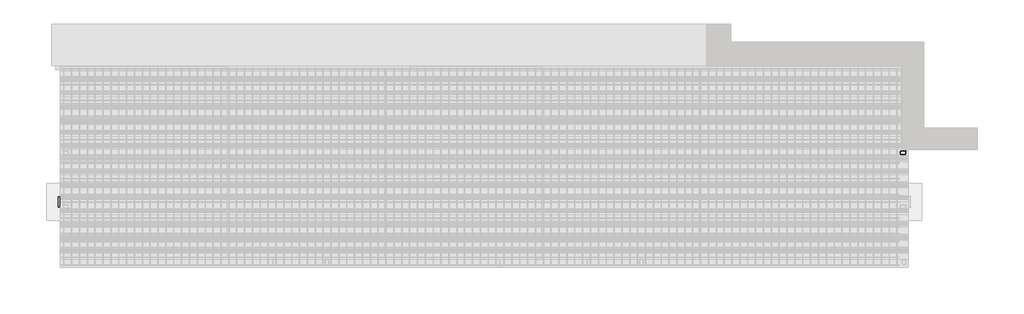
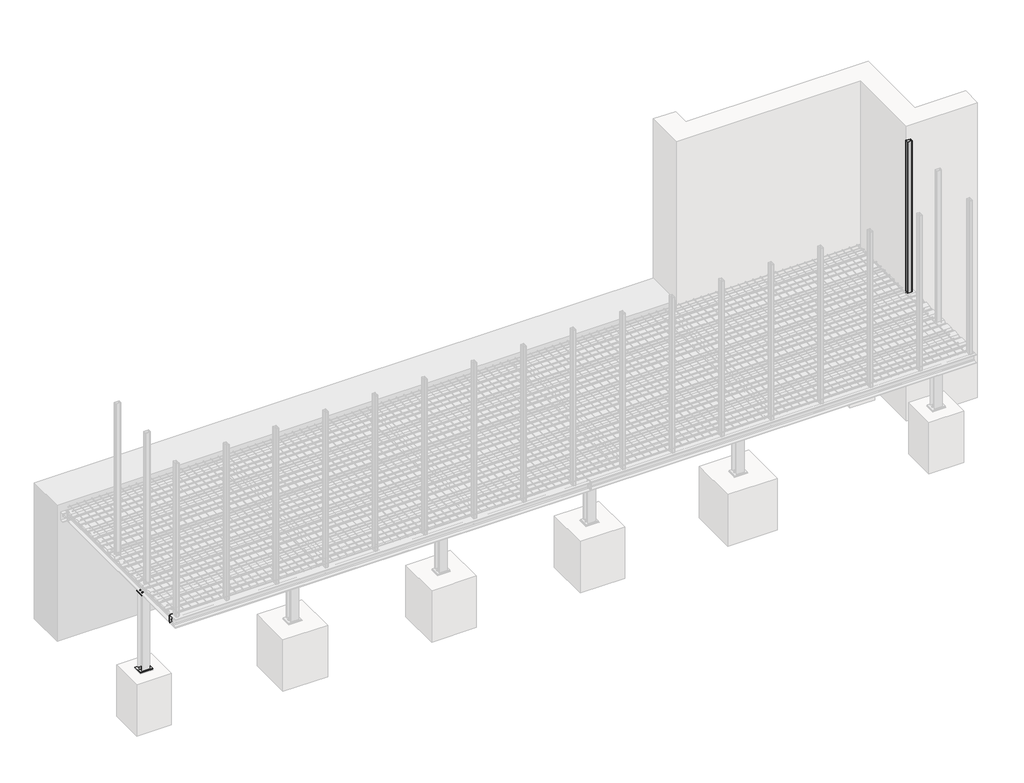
# One storey, part 6 of 36: 11 proxies, 1 column.
"""IFC4 building model written with IfcOpenShell, lengths in millimetres."""

from ifc_helpers import new_model, si_unit, point, frame, frame_2d, origin, place, context, project, spatial, polyline, circle_curve, trimmed, segment, composite_curve, outline, extrude, element, save

model = new_model("IFC4")

# Units and contexts
model_context = context("Model", 3, world=origin())
ifc_project = project(units=[si_unit("LENGTHUNIT", "METRE", prefix="MILLI")], contexts=[model_context])

# Site, building, storey
site = spatial("IfcSite", under=ifc_project)
building = spatial("IfcBuilding", under=site)
storey = spatial("IfcBuildingStorey", under=building, Name="Základy", Elevation=-1200.0)

# Proxies
placement = place(None, origin())
element("IfcBuildingElementProxy", 1, Name="PLECH", ObjectType="PLECH", at=placement, inside=storey, context=model_context, shape_type="SweptSolid", body=[
    extrude(outline(polyline([(150.0, 1200.0), (150.0, 1320.0), (160.0, 1320.0), (160.0, 1200.0), (150.0, 1200.0)])), frame((0.0, 0.0, -299.0), z_axis=(0.0, 0.0, 1.0), x_axis=(1.0, 0.0, 0.0)), (0.0, 0.0, 1.0), 98.0),
])
element("IfcBuildingElementProxy", 2, Name="PLECH", ObjectType="PLECH", at=placement, inside=storey, context=model_context, shape_type="SweptSolid", body=[
    extrude(outline(polyline([(140.0, 1200.0), (140.0, 1320.0), (150.0, 1320.0), (150.0, 1200.0), (140.0, 1200.0)])), frame((0.0, 0.0, -332.0), z_axis=(0.0, 0.0, 1.0), x_axis=(1.0, 0.0, 0.0)), (0.0, 0.0, 1.0), 164.0),
])
element("IfcBuildingElementProxy", 3, Name="PLECH", ObjectType="PLECH", at=placement, inside=storey, context=model_context, shape_type="SweptSolid", body=[
    extrude(outline(composite_curve([segment(polyline([(-174.0, 140.0), (-174.0, 79.5)]), True, "CONTINUOUS"), segment(trimmed(circle_curve(frame_2d((-174.0, 54.5)), 25.0), [point((-174.0, 79.5))], [point((-199.0, 54.5))], True, "CARTESIAN"), True, "CONTINUOUS"), segment(polyline([(-199.0, 54.5), (-301.0, 54.5)]), True, "CONTINUOUS"), segment(trimmed(circle_curve(frame_2d((-326.0, 54.5)), 25.0), [point((-301.0, 54.5))], [point((-326.0, 79.5))], True, "CARTESIAN"), True, "CONTINUOUS"), segment(polyline([(-326.0, 79.5), (-326.0, 140.0), (-174.0, 140.0)]), True, "CONTINUOUS")], self_intersect=False)), frame((0.0, 1256.0, 0.0), z_axis=(0.0, 1.0, 0.0), x_axis=(0.0, 0.0, 1.0)), (0.0, 0.0, 1.0), 8.0),
])
element("IfcBuildingElementProxy", 4, Name="PLECH", ObjectType="PLECH", at=placement, inside=storey, context=model_context, shape_type="SweptSolid", body=[
    extrude(outline(polyline([(-40.0, 210.0), (140.0, 210.0), (140.0, 200.0), (-40.0, 200.0), (-40.0, 210.0)])), frame((0.0, 0.0, -332.0), z_axis=(0.0, 0.0, 1.0), x_axis=(1.0, 0.0, 0.0)), (0.0, 0.0, 1.0), 164.0),
])
element("IfcBuildingElementProxy", 5, Name="PLECH", ObjectType="PLECH", at=placement, inside=storey, context=model_context, shape_type="SweptSolid", body=[
    extrude(outline(composite_curve([segment(polyline([(190.0, -174.0), (190.0, -326.0), (124.25, -326.0)]), True, "CONTINUOUS"), segment(trimmed(circle_curve(frame_2d((104.25, -326.0)), 20.0), [point((124.25, -326.0))], [point((104.25, -306.0))], True, "CARTESIAN"), True, "CONTINUOUS"), segment(polyline([(104.25, -306.0), (104.25, -194.0)]), True, "CONTINUOUS"), segment(trimmed(circle_curve(frame_2d((104.25, -174.0)), 20.0), [point((104.25, -194.0))], [point((124.25, -174.0))], True, "CARTESIAN"), True, "CONTINUOUS"), segment(polyline([(124.25, -174.0), (190.0, -174.0)]), True, "CONTINUOUS")], self_intersect=False)), frame((46.0, 0.0, 0.0), z_axis=(1.0, 0.0, 0.0), x_axis=(0.0, 1.0, 0.0)), (0.0, 0.0, 1.0), 8.0),
])
element("IfcBuildingElementProxy", 6, Name="PLECH", ObjectType="PLECH", at=placement, inside=storey, context=model_context, shape_type="SweptSolid", body=[
    extrude(outline(polyline([(-40.0, 200.0), (140.0, 200.0), (140.0, 190.0), (-40.0, 190.0), (-40.0, 200.0)])), frame((0.0, 0.0, -332.0), z_axis=(0.0, 0.0, 1.0), x_axis=(1.0, 0.0, 0.0)), (0.0, 0.0, 1.0), 164.0),
])
element("IfcBuildingElementProxy", 7, Name="PLECH", ObjectType="PLECH", at=placement, inside=storey, context=model_context, shape_type="SweptSolid", body=[
    extrude(outline(polyline([(175.0, 1356.0), (175.0, 1164.0), (-75.0, 1164.0), (-75.0, 1356.0), (175.0, 1356.0)])), frame((0.0, 0.0, -1990.0), z_axis=(0.0, 0.0, 1.0), x_axis=(1.0, 0.0, 0.0)), (0.0, 0.0, 1.0), 15.0),
])
element("IfcBuildingElementProxy", 8, Name="PLECH", ObjectType="PLECH", at=placement, inside=storey, context=model_context, shape_type="SweptSolid", body=[
    extrude(outline(polyline([(140.0, 1346.0), (140.0, 1174.0), (-40.0, 1174.0), (-40.0, 1346.0), (140.0, 1346.0)])), frame((0.0, 0.0, -350.0), z_axis=(0.0, 0.0, 1.0), x_axis=(1.0, 0.0, 0.0)), (0.0, 0.0, 1.0), 10.0),
])
element("IfcBuildingElementProxy", 9, Name="Bolt assembly", ObjectType="Bolt assembly", at=placement, inside=storey, context=model_context, shape_type="SweptSolid", body=[
    extrude(outline(composite_curve([segment(trimmed(circle_curve(frame_2d((1230.0, -225.0)), 6.5), [point((1230.0, -231.5))], [point((1230.0, -218.5))], False, "CARTESIAN"), True, "CONTINUOUS"), segment(trimmed(circle_curve(frame_2d((1230.0, -225.0)), 6.5), [point((1230.0, -218.5))], [point((1230.0, -231.5))], False, "CARTESIAN"), True, "CONTINUOUS")], self_intersect=False)), frame((140.1, 0.0, 0.0), z_axis=(1.0, 0.0, 0.0), x_axis=(0.0, 1.0, 0.0)), (0.0, 0.0, 1.0), 10.0),
    extrude(outline(polyline([(1230.0, -235.3923048), (1221.0, -230.1961524), (1221.0, -219.8038476), (1230.0, -214.6076952), (1239.0, -219.8038476), (1239.0, -230.1961524), (1230.0, -235.3923048)])), frame((130.0, 0.0, 0.0), z_axis=(1.0, 0.0, 0.0), x_axis=(0.0, 1.0, 0.0)), (0.0, 0.0, 1.0), 7.5),
    extrude(outline(composite_curve([segment(trimmed(circle_curve(frame_2d((1230.0, -225.0)), 6.0), [point((1230.0, -231.0))], [point((1230.0, -219.0))], False, "CARTESIAN"), True, "CONTINUOUS"), segment(trimmed(circle_curve(frame_2d((1230.0, -225.0)), 6.0), [point((1230.0, -219.0))], [point((1230.0, -231.0))], False, "CARTESIAN"), True, "CONTINUOUS")], self_intersect=False)), frame((137.5, 0.0, 0.0), z_axis=(1.0, 0.0, 0.0), x_axis=(0.0, 1.0, 0.0)), (0.0, 0.0, 1.0), 40.0),
    extrude(outline(composite_curve([segment(trimmed(circle_curve(frame_2d((1230.0, -225.0)), 12.0), [point((1230.0, -237.0))], [point((1230.0, -213.0))], False, "CARTESIAN"), True, "CONTINUOUS"), segment(trimmed(circle_curve(frame_2d((1230.0, -225.0)), 12.0), [point((1230.0, -213.0))], [point((1230.0, -237.0))], False, "CARTESIAN"), True, "CONTINUOUS")], self_intersect=False)), frame((137.5, 0.0, 0.0), z_axis=(1.0, 0.0, 0.0), x_axis=(0.0, 1.0, 0.0)), (0.0, 0.0, 1.0), 2.5),
    extrude(outline(composite_curve([segment(trimmed(circle_curve(frame_2d((1230.0, -225.0)), 12.0), [point((1230.0, -237.0))], [point((1230.0, -213.0))], False, "CARTESIAN"), True, "CONTINUOUS"), segment(trimmed(circle_curve(frame_2d((1230.0, -225.0)), 12.0), [point((1230.0, -213.0))], [point((1230.0, -237.0))], False, "CARTESIAN"), True, "CONTINUOUS")], self_intersect=False)), frame((160.0, 0.0, 0.0), z_axis=(1.0, 0.0, 0.0), x_axis=(0.0, 1.0, 0.0)), (0.0, 0.0, 1.0), 2.5),
    extrude(outline(polyline([(1230.0, -235.9696551), (1220.5, -230.4848276), (1220.5, -219.5151724), (1230.0, -214.0303449), (1239.5, -219.5151724), (1239.5, -230.4848276), (1230.0, -235.9696551)])), frame((162.5, 0.0, 0.0), z_axis=(1.0, 0.0, 0.0), x_axis=(0.0, 1.0, 0.0)), (0.0, 0.0, 1.0), 10.0),
    extrude(outline(composite_curve([segment(trimmed(circle_curve(frame_2d((1230.0, -225.0)), 6.5), [point((1230.0, -231.5))], [point((1230.0, -218.5))], False, "CARTESIAN"), True, "CONTINUOUS"), segment(trimmed(circle_curve(frame_2d((1230.0, -225.0)), 6.5), [point((1230.0, -218.5))], [point((1230.0, -231.5))], False, "CARTESIAN"), True, "CONTINUOUS")], self_intersect=False)), frame((149.9, 0.0, 0.0), z_axis=(1.0, 0.0, 0.0), x_axis=(0.0, 1.0, 0.0)), (0.0, 0.0, 1.0), 10.1),
    extrude(outline(composite_curve([segment(trimmed(circle_curve(frame_2d((1230.0, -275.0)), 6.5), [point((1230.0, -281.5))], [point((1230.0, -268.5))], False, "CARTESIAN"), True, "CONTINUOUS"), segment(trimmed(circle_curve(frame_2d((1230.0, -275.0)), 6.5), [point((1230.0, -268.5))], [point((1230.0, -281.5))], False, "CARTESIAN"), True, "CONTINUOUS")], self_intersect=False)), frame((140.1, 0.0, 0.0), z_axis=(1.0, 0.0, 0.0), x_axis=(0.0, 1.0, 0.0)), (0.0, 0.0, 1.0), 10.0),
    extrude(outline(polyline([(1230.0, -285.3923048), (1221.0, -280.1961524), (1221.0, -269.8038476), (1230.0, -264.6076952), (1239.0, -269.8038476), (1239.0, -280.1961524), (1230.0, -285.3923048)])), frame((130.0, 0.0, 0.0), z_axis=(1.0, 0.0, 0.0), x_axis=(0.0, 1.0, 0.0)), (0.0, 0.0, 1.0), 7.5),
    extrude(outline(composite_curve([segment(trimmed(circle_curve(frame_2d((1230.0, -275.0)), 6.0), [point((1230.0, -281.0))], [point((1230.0, -269.0))], False, "CARTESIAN"), True, "CONTINUOUS"), segment(trimmed(circle_curve(frame_2d((1230.0, -275.0)), 6.0), [point((1230.0, -269.0))], [point((1230.0, -281.0))], False, "CARTESIAN"), True, "CONTINUOUS")], self_intersect=False)), frame((137.5, 0.0, 0.0), z_axis=(1.0, 0.0, 0.0), x_axis=(0.0, 1.0, 0.0)), (0.0, 0.0, 1.0), 40.0),
    extrude(outline(composite_curve([segment(trimmed(circle_curve(frame_2d((1230.0, -275.0)), 12.0), [point((1230.0, -287.0))], [point((1230.0, -263.0))], False, "CARTESIAN"), True, "CONTINUOUS"), segment(trimmed(circle_curve(frame_2d((1230.0, -275.0)), 12.0), [point((1230.0, -263.0))], [point((1230.0, -287.0))], False, "CARTESIAN"), True, "CONTINUOUS")], self_intersect=False)), frame((137.5, 0.0, 0.0), z_axis=(1.0, 0.0, 0.0), x_axis=(0.0, 1.0, 0.0)), (0.0, 0.0, 1.0), 2.5),
    extrude(outline(composite_curve([segment(trimmed(circle_curve(frame_2d((1230.0, -275.0)), 12.0), [point((1230.0, -287.0))], [point((1230.0, -263.0))], False, "CARTESIAN"), True, "CONTINUOUS"), segment(trimmed(circle_curve(frame_2d((1230.0, -275.0)), 12.0), [point((1230.0, -263.0))], [point((1230.0, -287.0))], False, "CARTESIAN"), True, "CONTINUOUS")], self_intersect=False)), frame((160.0, 0.0, 0.0), z_axis=(1.0, 0.0, 0.0), x_axis=(0.0, 1.0, 0.0)), (0.0, 0.0, 1.0), 2.5),
    extrude(outline(polyline([(1230.0, -285.9696551), (1220.5, -280.4848276), (1220.5, -269.5151724), (1230.0, -264.0303449), (1239.5, -269.5151724), (1239.5, -280.4848276), (1230.0, -285.9696551)])), frame((162.5, 0.0, 0.0), z_axis=(1.0, 0.0, 0.0), x_axis=(0.0, 1.0, 0.0)), (0.0, 0.0, 1.0), 10.0),
    extrude(outline(composite_curve([segment(trimmed(circle_curve(frame_2d((1230.0, -275.0)), 6.5), [point((1230.0, -281.5))], [point((1230.0, -268.5))], False, "CARTESIAN"), True, "CONTINUOUS"), segment(trimmed(circle_curve(frame_2d((1230.0, -275.0)), 6.5), [point((1230.0, -268.5))], [point((1230.0, -281.5))], False, "CARTESIAN"), True, "CONTINUOUS")], self_intersect=False)), frame((149.9, 0.0, 0.0), z_axis=(1.0, 0.0, 0.0), x_axis=(0.0, 1.0, 0.0)), (0.0, 0.0, 1.0), 10.1),
    extrude(outline(composite_curve([segment(trimmed(circle_curve(frame_2d((1290.0, -225.0)), 6.5), [point((1290.0, -231.5))], [point((1290.0, -218.5))], False, "CARTESIAN"), True, "CONTINUOUS"), segment(trimmed(circle_curve(frame_2d((1290.0, -225.0)), 6.5), [point((1290.0, -218.5))], [point((1290.0, -231.5))], False, "CARTESIAN"), True, "CONTINUOUS")], self_intersect=False)), frame((140.1, 0.0, 0.0), z_axis=(1.0, 0.0, 0.0), x_axis=(0.0, 1.0, 0.0)), (0.0, 0.0, 1.0), 10.0),
    extrude(outline(polyline([(1290.0, -235.3923048), (1281.0, -230.1961524), (1281.0, -219.8038476), (1290.0, -214.6076952), (1299.0, -219.8038476), (1299.0, -230.1961524), (1290.0, -235.3923048)])), frame((130.0, 0.0, 0.0), z_axis=(1.0, 0.0, 0.0), x_axis=(0.0, 1.0, 0.0)), (0.0, 0.0, 1.0), 7.5),
    extrude(outline(composite_curve([segment(trimmed(circle_curve(frame_2d((1290.0, -225.0)), 6.0), [point((1290.0, -231.0))], [point((1290.0, -219.0))], False, "CARTESIAN"), True, "CONTINUOUS"), segment(trimmed(circle_curve(frame_2d((1290.0, -225.0)), 6.0), [point((1290.0, -219.0))], [point((1290.0, -231.0))], False, "CARTESIAN"), True, "CONTINUOUS")], self_intersect=False)), frame((137.5, 0.0, 0.0), z_axis=(1.0, 0.0, 0.0), x_axis=(0.0, 1.0, 0.0)), (0.0, 0.0, 1.0), 40.0),
    extrude(outline(composite_curve([segment(trimmed(circle_curve(frame_2d((1290.0, -225.0)), 12.0), [point((1290.0, -237.0))], [point((1290.0, -213.0))], False, "CARTESIAN"), True, "CONTINUOUS"), segment(trimmed(circle_curve(frame_2d((1290.0, -225.0)), 12.0), [point((1290.0, -213.0))], [point((1290.0, -237.0))], False, "CARTESIAN"), True, "CONTINUOUS")], self_intersect=False)), frame((137.5, 0.0, 0.0), z_axis=(1.0, 0.0, 0.0), x_axis=(0.0, 1.0, 0.0)), (0.0, 0.0, 1.0), 2.5),
    extrude(outline(composite_curve([segment(trimmed(circle_curve(frame_2d((1290.0, -225.0)), 12.0), [point((1290.0, -237.0))], [point((1290.0, -213.0))], False, "CARTESIAN"), True, "CONTINUOUS"), segment(trimmed(circle_curve(frame_2d((1290.0, -225.0)), 12.0), [point((1290.0, -213.0))], [point((1290.0, -237.0))], False, "CARTESIAN"), True, "CONTINUOUS")], self_intersect=False)), frame((160.0, 0.0, 0.0), z_axis=(1.0, 0.0, 0.0), x_axis=(0.0, 1.0, 0.0)), (0.0, 0.0, 1.0), 2.5),
    extrude(outline(polyline([(1290.0, -235.9696551), (1280.5, -230.4848276), (1280.5, -219.5151724), (1290.0, -214.0303449), (1299.5, -219.5151724), (1299.5, -230.4848276), (1290.0, -235.9696551)])), frame((162.5, 0.0, 0.0), z_axis=(1.0, 0.0, 0.0), x_axis=(0.0, 1.0, 0.0)), (0.0, 0.0, 1.0), 10.0),
    extrude(outline(composite_curve([segment(trimmed(circle_curve(frame_2d((1290.0, -225.0)), 6.5), [point((1290.0, -231.5))], [point((1290.0, -218.5))], False, "CARTESIAN"), True, "CONTINUOUS"), segment(trimmed(circle_curve(frame_2d((1290.0, -225.0)), 6.5), [point((1290.0, -218.5))], [point((1290.0, -231.5))], False, "CARTESIAN"), True, "CONTINUOUS")], self_intersect=False)), frame((149.9, 0.0, 0.0), z_axis=(1.0, 0.0, 0.0), x_axis=(0.0, 1.0, 0.0)), (0.0, 0.0, 1.0), 10.1),
    extrude(outline(composite_curve([segment(trimmed(circle_curve(frame_2d((1290.0, -275.0)), 6.5), [point((1290.0, -281.5))], [point((1290.0, -268.5))], False, "CARTESIAN"), True, "CONTINUOUS"), segment(trimmed(circle_curve(frame_2d((1290.0, -275.0)), 6.5), [point((1290.0, -268.5))], [point((1290.0, -281.5))], False, "CARTESIAN"), True, "CONTINUOUS")], self_intersect=False)), frame((140.1, 0.0, 0.0), z_axis=(1.0, 0.0, 0.0), x_axis=(0.0, 1.0, 0.0)), (0.0, 0.0, 1.0), 10.0),
    extrude(outline(polyline([(1290.0, -285.3923048), (1281.0, -280.1961524), (1281.0, -269.8038476), (1290.0, -264.6076952), (1299.0, -269.8038476), (1299.0, -280.1961524), (1290.0, -285.3923048)])), frame((130.0, 0.0, 0.0), z_axis=(1.0, 0.0, 0.0), x_axis=(0.0, 1.0, 0.0)), (0.0, 0.0, 1.0), 7.5),
    extrude(outline(composite_curve([segment(trimmed(circle_curve(frame_2d((1290.0, -275.0)), 6.0), [point((1290.0, -281.0))], [point((1290.0, -269.0))], False, "CARTESIAN"), True, "CONTINUOUS"), segment(trimmed(circle_curve(frame_2d((1290.0, -275.0)), 6.0), [point((1290.0, -269.0))], [point((1290.0, -281.0))], False, "CARTESIAN"), True, "CONTINUOUS")], self_intersect=False)), frame((137.5, 0.0, 0.0), z_axis=(1.0, 0.0, 0.0), x_axis=(0.0, 1.0, 0.0)), (0.0, 0.0, 1.0), 40.0),
    extrude(outline(composite_curve([segment(trimmed(circle_curve(frame_2d((1290.0, -275.0)), 12.0), [point((1290.0, -287.0))], [point((1290.0, -263.0))], False, "CARTESIAN"), True, "CONTINUOUS"), segment(trimmed(circle_curve(frame_2d((1290.0, -275.0)), 12.0), [point((1290.0, -263.0))], [point((1290.0, -287.0))], False, "CARTESIAN"), True, "CONTINUOUS")], self_intersect=False)), frame((137.5, 0.0, 0.0), z_axis=(1.0, 0.0, 0.0), x_axis=(0.0, 1.0, 0.0)), (0.0, 0.0, 1.0), 2.5),
    extrude(outline(composite_curve([segment(trimmed(circle_curve(frame_2d((1290.0, -275.0)), 12.0), [point((1290.0, -287.0))], [point((1290.0, -263.0))], False, "CARTESIAN"), True, "CONTINUOUS"), segment(trimmed(circle_curve(frame_2d((1290.0, -275.0)), 12.0), [point((1290.0, -263.0))], [point((1290.0, -287.0))], False, "CARTESIAN"), True, "CONTINUOUS")], self_intersect=False)), frame((160.0, 0.0, 0.0), z_axis=(1.0, 0.0, 0.0), x_axis=(0.0, 1.0, 0.0)), (0.0, 0.0, 1.0), 2.5),
    extrude(outline(polyline([(1290.0, -285.9696551), (1280.5, -280.4848276), (1280.5, -269.5151724), (1290.0, -264.0303449), (1299.5, -269.5151724), (1299.5, -280.4848276), (1290.0, -285.9696551)])), frame((162.5, 0.0, 0.0), z_axis=(1.0, 0.0, 0.0), x_axis=(0.0, 1.0, 0.0)), (0.0, 0.0, 1.0), 10.0),
    extrude(outline(composite_curve([segment(trimmed(circle_curve(frame_2d((1290.0, -275.0)), 6.5), [point((1290.0, -281.5))], [point((1290.0, -268.5))], False, "CARTESIAN"), True, "CONTINUOUS"), segment(trimmed(circle_curve(frame_2d((1290.0, -275.0)), 6.5), [point((1290.0, -268.5))], [point((1290.0, -281.5))], False, "CARTESIAN"), True, "CONTINUOUS")], self_intersect=False)), frame((149.9, 0.0, 0.0), z_axis=(1.0, 0.0, 0.0), x_axis=(0.0, 1.0, 0.0)), (0.0, 0.0, 1.0), 10.1),
])
element("IfcBuildingElementProxy", 10, Name="Bolt assembly", ObjectType="Bolt assembly", at=placement, inside=storey, context=model_context, shape_type="SweptSolid", body=[
    extrude(outline(composite_curve([segment(trimmed(circle_curve(frame_2d((-290.0, 5.0)), 9.0), [point((-290.0, 14.0))], [point((-290.0, -4.0))], False, "CARTESIAN"), True, "CONTINUOUS"), segment(trimmed(circle_curve(frame_2d((-290.0, 5.0)), 9.0), [point((-290.0, -4.0))], [point((-290.0, 14.0))], False, "CARTESIAN"), True, "CONTINUOUS")], self_intersect=False)), frame((0.0, 190.1, 0.0), z_axis=(0.0, 1.0, 0.0), x_axis=(0.0, 0.0, 1.0)), (0.0, 0.0, 1.0), 10.0),
    extrude(outline(polyline([(-290.0, 18.8564065), (-278.0, 11.9282032), (-278.0, -1.9282032), (-290.0, -8.8564065), (-302.0, -1.9282032), (-302.0, 11.9282032), (-290.0, 18.8564065)])), frame((0.0, 177.0, 0.0), z_axis=(0.0, 1.0, 0.0), x_axis=(0.0, 0.0, 1.0)), (0.0, 0.0, 1.0), 10.0),
    extrude(outline(composite_curve([segment(trimmed(circle_curve(frame_2d((-290.0, 5.0)), 8.0), [point((-290.0, 13.0))], [point((-290.0, -3.0))], False, "CARTESIAN"), True, "CONTINUOUS"), segment(trimmed(circle_curve(frame_2d((-290.0, 5.0)), 8.0), [point((-290.0, -3.0))], [point((-290.0, 13.0))], False, "CARTESIAN"), True, "CONTINUOUS")], self_intersect=False)), frame((0.0, 187.0, 0.0), z_axis=(0.0, 1.0, 0.0), x_axis=(0.0, 0.0, 1.0)), (0.0, 0.0, 1.0), 50.0),
    extrude(outline(composite_curve([segment(trimmed(circle_curve(frame_2d((-290.0, 5.0)), 15.0), [point((-290.0, 20.0))], [point((-290.0, -10.0))], False, "CARTESIAN"), True, "CONTINUOUS"), segment(trimmed(circle_curve(frame_2d((-290.0, 5.0)), 15.0), [point((-290.0, -10.0))], [point((-290.0, 20.0))], False, "CARTESIAN"), True, "CONTINUOUS")], self_intersect=False)), frame((0.0, 187.0, 0.0), z_axis=(0.0, 1.0, 0.0), x_axis=(0.0, 0.0, 1.0)), (0.0, 0.0, 1.0), 3.0),
    extrude(outline(composite_curve([segment(trimmed(circle_curve(frame_2d((-290.0, 5.0)), 15.0), [point((-290.0, 20.0))], [point((-290.0, -10.0))], False, "CARTESIAN"), True, "CONTINUOUS"), segment(trimmed(circle_curve(frame_2d((-290.0, 5.0)), 15.0), [point((-290.0, -10.0))], [point((-290.0, 20.0))], False, "CARTESIAN"), True, "CONTINUOUS")], self_intersect=False)), frame((0.0, 210.0, 0.0), z_axis=(0.0, 1.0, 0.0), x_axis=(0.0, 0.0, 1.0)), (0.0, 0.0, 1.0), 3.0),
    extrude(outline(polyline([(-290.0, 20.4441197), (-276.625, 12.7220599), (-276.625, -2.7220599), (-290.0, -10.4441197), (-303.375, -2.7220599), (-303.375, 12.7220599), (-290.0, 20.4441197)])), frame((0.0, 213.0, 0.0), z_axis=(0.0, 1.0, 0.0), x_axis=(0.0, 0.0, 1.0)), (0.0, 0.0, 1.0), 13.0),
    extrude(outline(composite_curve([segment(trimmed(circle_curve(frame_2d((-290.0, 5.0)), 9.0), [point((-290.0, 14.0))], [point((-290.0, -4.0))], False, "CARTESIAN"), True, "CONTINUOUS"), segment(trimmed(circle_curve(frame_2d((-290.0, 5.0)), 9.0), [point((-290.0, -4.0))], [point((-290.0, 14.0))], False, "CARTESIAN"), True, "CONTINUOUS")], self_intersect=False)), frame((0.0, 199.9, 0.0), z_axis=(0.0, 1.0, 0.0), x_axis=(0.0, 0.0, 1.0)), (0.0, 0.0, 1.0), 10.1),
    extrude(outline(composite_curve([segment(trimmed(circle_curve(frame_2d((-290.0, 95.0)), 9.0), [point((-290.0, 104.0))], [point((-290.0, 86.0))], False, "CARTESIAN"), True, "CONTINUOUS"), segment(trimmed(circle_curve(frame_2d((-290.0, 95.0)), 9.0), [point((-290.0, 86.0))], [point((-290.0, 104.0))], False, "CARTESIAN"), True, "CONTINUOUS")], self_intersect=False)), frame((0.0, 190.1, 0.0), z_axis=(0.0, 1.0, 0.0), x_axis=(0.0, 0.0, 1.0)), (0.0, 0.0, 1.0), 10.0),
    extrude(outline(polyline([(-290.0, 108.8564065), (-278.0, 101.9282032), (-278.0, 88.0717968), (-290.0, 81.1435935), (-302.0, 88.0717968), (-302.0, 101.9282032), (-290.0, 108.8564065)])), frame((0.0, 177.0, 0.0), z_axis=(0.0, 1.0, 0.0), x_axis=(0.0, 0.0, 1.0)), (0.0, 0.0, 1.0), 10.0),
    extrude(outline(composite_curve([segment(trimmed(circle_curve(frame_2d((-290.0, 95.0)), 8.0), [point((-290.0, 103.0))], [point((-290.0, 87.0))], False, "CARTESIAN"), True, "CONTINUOUS"), segment(trimmed(circle_curve(frame_2d((-290.0, 95.0)), 8.0), [point((-290.0, 87.0))], [point((-290.0, 103.0))], False, "CARTESIAN"), True, "CONTINUOUS")], self_intersect=False)), frame((0.0, 187.0, 0.0), z_axis=(0.0, 1.0, 0.0), x_axis=(0.0, 0.0, 1.0)), (0.0, 0.0, 1.0), 50.0),
    extrude(outline(composite_curve([segment(trimmed(circle_curve(frame_2d((-290.0, 95.0)), 15.0), [point((-290.0, 110.0))], [point((-290.0, 80.0))], False, "CARTESIAN"), True, "CONTINUOUS"), segment(trimmed(circle_curve(frame_2d((-290.0, 95.0)), 15.0), [point((-290.0, 80.0))], [point((-290.0, 110.0))], False, "CARTESIAN"), True, "CONTINUOUS")], self_intersect=False)), frame((0.0, 187.0, 0.0), z_axis=(0.0, 1.0, 0.0), x_axis=(0.0, 0.0, 1.0)), (0.0, 0.0, 1.0), 3.0),
    extrude(outline(composite_curve([segment(trimmed(circle_curve(frame_2d((-290.0, 95.0)), 15.0), [point((-290.0, 110.0))], [point((-290.0, 80.0))], False, "CARTESIAN"), True, "CONTINUOUS"), segment(trimmed(circle_curve(frame_2d((-290.0, 95.0)), 15.0), [point((-290.0, 80.0))], [point((-290.0, 110.0))], False, "CARTESIAN"), True, "CONTINUOUS")], self_intersect=False)), frame((0.0, 210.0, 0.0), z_axis=(0.0, 1.0, 0.0), x_axis=(0.0, 0.0, 1.0)), (0.0, 0.0, 1.0), 3.0),
    extrude(outline(polyline([(-290.0, 110.4441197), (-276.625, 102.7220599), (-276.625, 87.2779401), (-290.0, 79.5558803), (-303.375, 87.2779401), (-303.375, 102.7220599), (-290.0, 110.4441197)])), frame((0.0, 213.0, 0.0), z_axis=(0.0, 1.0, 0.0), x_axis=(0.0, 0.0, 1.0)), (0.0, 0.0, 1.0), 13.0),
    extrude(outline(composite_curve([segment(trimmed(circle_curve(frame_2d((-290.0, 95.0)), 9.0), [point((-290.0, 104.0))], [point((-290.0, 86.0))], False, "CARTESIAN"), True, "CONTINUOUS"), segment(trimmed(circle_curve(frame_2d((-290.0, 95.0)), 9.0), [point((-290.0, 86.0))], [point((-290.0, 104.0))], False, "CARTESIAN"), True, "CONTINUOUS")], self_intersect=False)), frame((0.0, 199.9, 0.0), z_axis=(0.0, 1.0, 0.0), x_axis=(0.0, 0.0, 1.0)), (0.0, 0.0, 1.0), 10.1),
    extrude(outline(composite_curve([segment(trimmed(circle_curve(frame_2d((-210.0, 5.0)), 9.0), [point((-210.0, 14.0))], [point((-210.0, -4.0))], False, "CARTESIAN"), True, "CONTINUOUS"), segment(trimmed(circle_curve(frame_2d((-210.0, 5.0)), 9.0), [point((-210.0, -4.0))], [point((-210.0, 14.0))], False, "CARTESIAN"), True, "CONTINUOUS")], self_intersect=False)), frame((0.0, 190.1, 0.0), z_axis=(0.0, 1.0, 0.0), x_axis=(0.0, 0.0, 1.0)), (0.0, 0.0, 1.0), 10.0),
    extrude(outline(polyline([(-210.0, 18.8564065), (-198.0, 11.9282032), (-198.0, -1.9282032), (-210.0, -8.8564065), (-222.0, -1.9282032), (-222.0, 11.9282032), (-210.0, 18.8564065)])), frame((0.0, 177.0, 0.0), z_axis=(0.0, 1.0, 0.0), x_axis=(0.0, 0.0, 1.0)), (0.0, 0.0, 1.0), 10.0),
    extrude(outline(composite_curve([segment(trimmed(circle_curve(frame_2d((-210.0, 5.0)), 8.0), [point((-210.0, 13.0))], [point((-210.0, -3.0))], False, "CARTESIAN"), True, "CONTINUOUS"), segment(trimmed(circle_curve(frame_2d((-210.0, 5.0)), 8.0), [point((-210.0, -3.0))], [point((-210.0, 13.0))], False, "CARTESIAN"), True, "CONTINUOUS")], self_intersect=False)), frame((0.0, 187.0, 0.0), z_axis=(0.0, 1.0, 0.0), x_axis=(0.0, 0.0, 1.0)), (0.0, 0.0, 1.0), 50.0),
    extrude(outline(composite_curve([segment(trimmed(circle_curve(frame_2d((-210.0, 5.0)), 15.0), [point((-210.0, 20.0))], [point((-210.0, -10.0))], False, "CARTESIAN"), True, "CONTINUOUS"), segment(trimmed(circle_curve(frame_2d((-210.0, 5.0)), 15.0), [point((-210.0, -10.0))], [point((-210.0, 20.0))], False, "CARTESIAN"), True, "CONTINUOUS")], self_intersect=False)), frame((0.0, 187.0, 0.0), z_axis=(0.0, 1.0, 0.0), x_axis=(0.0, 0.0, 1.0)), (0.0, 0.0, 1.0), 3.0),
    extrude(outline(composite_curve([segment(trimmed(circle_curve(frame_2d((-210.0, 5.0)), 15.0), [point((-210.0, 20.0))], [point((-210.0, -10.0))], False, "CARTESIAN"), True, "CONTINUOUS"), segment(trimmed(circle_curve(frame_2d((-210.0, 5.0)), 15.0), [point((-210.0, -10.0))], [point((-210.0, 20.0))], False, "CARTESIAN"), True, "CONTINUOUS")], self_intersect=False)), frame((0.0, 210.0, 0.0), z_axis=(0.0, 1.0, 0.0), x_axis=(0.0, 0.0, 1.0)), (0.0, 0.0, 1.0), 3.0),
    extrude(outline(polyline([(-210.0, 20.4441197), (-196.625, 12.7220599), (-196.625, -2.7220599), (-210.0, -10.4441197), (-223.375, -2.7220599), (-223.375, 12.7220599), (-210.0, 20.4441197)])), frame((0.0, 213.0, 0.0), z_axis=(0.0, 1.0, 0.0), x_axis=(0.0, 0.0, 1.0)), (0.0, 0.0, 1.0), 13.0),
    extrude(outline(composite_curve([segment(trimmed(circle_curve(frame_2d((-210.0, 5.0)), 9.0), [point((-210.0, 14.0))], [point((-210.0, -4.0))], False, "CARTESIAN"), True, "CONTINUOUS"), segment(trimmed(circle_curve(frame_2d((-210.0, 5.0)), 9.0), [point((-210.0, -4.0))], [point((-210.0, 14.0))], False, "CARTESIAN"), True, "CONTINUOUS")], self_intersect=False)), frame((0.0, 199.9, 0.0), z_axis=(0.0, 1.0, 0.0), x_axis=(0.0, 0.0, 1.0)), (0.0, 0.0, 1.0), 10.1),
    extrude(outline(composite_curve([segment(trimmed(circle_curve(frame_2d((-210.0, 95.0)), 9.0), [point((-210.0, 104.0))], [point((-210.0, 86.0))], False, "CARTESIAN"), True, "CONTINUOUS"), segment(trimmed(circle_curve(frame_2d((-210.0, 95.0)), 9.0), [point((-210.0, 86.0))], [point((-210.0, 104.0))], False, "CARTESIAN"), True, "CONTINUOUS")], self_intersect=False)), frame((0.0, 190.1, 0.0), z_axis=(0.0, 1.0, 0.0), x_axis=(0.0, 0.0, 1.0)), (0.0, 0.0, 1.0), 10.0),
    extrude(outline(polyline([(-210.0, 108.8564065), (-198.0, 101.9282032), (-198.0, 88.0717968), (-210.0, 81.1435935), (-222.0, 88.0717968), (-222.0, 101.9282032), (-210.0, 108.8564065)])), frame((0.0, 177.0, 0.0), z_axis=(0.0, 1.0, 0.0), x_axis=(0.0, 0.0, 1.0)), (0.0, 0.0, 1.0), 10.0),
    extrude(outline(composite_curve([segment(trimmed(circle_curve(frame_2d((-210.0, 95.0)), 8.0), [point((-210.0, 103.0))], [point((-210.0, 87.0))], False, "CARTESIAN"), True, "CONTINUOUS"), segment(trimmed(circle_curve(frame_2d((-210.0, 95.0)), 8.0), [point((-210.0, 87.0))], [point((-210.0, 103.0))], False, "CARTESIAN"), True, "CONTINUOUS")], self_intersect=False)), frame((0.0, 187.0, 0.0), z_axis=(0.0, 1.0, 0.0), x_axis=(0.0, 0.0, 1.0)), (0.0, 0.0, 1.0), 50.0),
    extrude(outline(composite_curve([segment(trimmed(circle_curve(frame_2d((-210.0, 95.0)), 15.0), [point((-210.0, 110.0))], [point((-210.0, 80.0))], False, "CARTESIAN"), True, "CONTINUOUS"), segment(trimmed(circle_curve(frame_2d((-210.0, 95.0)), 15.0), [point((-210.0, 80.0))], [point((-210.0, 110.0))], False, "CARTESIAN"), True, "CONTINUOUS")], self_intersect=False)), frame((0.0, 187.0, 0.0), z_axis=(0.0, 1.0, 0.0), x_axis=(0.0, 0.0, 1.0)), (0.0, 0.0, 1.0), 3.0),
    extrude(outline(composite_curve([segment(trimmed(circle_curve(frame_2d((-210.0, 95.0)), 15.0), [point((-210.0, 110.0))], [point((-210.0, 80.0))], False, "CARTESIAN"), True, "CONTINUOUS"), segment(trimmed(circle_curve(frame_2d((-210.0, 95.0)), 15.0), [point((-210.0, 80.0))], [point((-210.0, 110.0))], False, "CARTESIAN"), True, "CONTINUOUS")], self_intersect=False)), frame((0.0, 210.0, 0.0), z_axis=(0.0, 1.0, 0.0), x_axis=(0.0, 0.0, 1.0)), (0.0, 0.0, 1.0), 3.0),
    extrude(outline(polyline([(-210.0, 110.4441197), (-196.625, 102.7220599), (-196.625, 87.2779401), (-210.0, 79.5558803), (-223.375, 87.2779401), (-223.375, 102.7220599), (-210.0, 110.4441197)])), frame((0.0, 213.0, 0.0), z_axis=(0.0, 1.0, 0.0), x_axis=(0.0, 0.0, 1.0)), (0.0, 0.0, 1.0), 13.0),
    extrude(outline(composite_curve([segment(trimmed(circle_curve(frame_2d((-210.0, 95.0)), 9.0), [point((-210.0, 104.0))], [point((-210.0, 86.0))], False, "CARTESIAN"), True, "CONTINUOUS"), segment(trimmed(circle_curve(frame_2d((-210.0, 95.0)), 9.0), [point((-210.0, 86.0))], [point((-210.0, 104.0))], False, "CARTESIAN"), True, "CONTINUOUS")], self_intersect=False)), frame((0.0, 199.9, 0.0), z_axis=(0.0, 1.0, 0.0), x_axis=(0.0, 0.0, 1.0)), (0.0, 0.0, 1.0), 10.1),
])
element("IfcBuildingElementProxy", 11, Name="Bolt assembly", ObjectType="Bolt assembly", at=placement, inside=storey, context=model_context, shape_type="SweptSolid", body=[
    extrude(outline(composite_curve([segment(trimmed(circle_curve(frame_2d((0.0, 1220.0)), 6.5), [point((6.5, 1220.0))], [point((-6.5, 1220.0))], False, "CARTESIAN"), True, "CONTINUOUS"), segment(trimmed(circle_curve(frame_2d((0.0, 1220.0)), 6.5), [point((-6.5, 1220.0))], [point((6.5, 1220.0))], False, "CARTESIAN"), True, "CONTINUOUS")], self_intersect=False)), frame((0.0, 0.0, -350.0), z_axis=(0.0, 0.0, 1.0), x_axis=(1.0, 0.0, 0.0)), (0.0, 0.0, 1.0), 10.1),
    extrude(outline(polyline([(10.3923048, 1220.0), (5.1961524, 1211.0), (-5.1961524, 1211.0), (-10.3923048, 1220.0), (-5.1961524, 1229.0), (5.1961524, 1229.0), (10.3923048, 1220.0)])), frame((0.0, 0.0, -323.5), z_axis=(0.0, 0.0, 1.0), x_axis=(1.0, 0.0, 0.0)), (0.0, 0.0, 1.0), 7.5),
    extrude(outline(composite_curve([segment(trimmed(circle_curve(frame_2d((0.0, 1220.0)), 6.0), [point((6.0, 1220.0))], [point((-6.0, 1220.0))], False, "CARTESIAN"), True, "CONTINUOUS"), segment(trimmed(circle_curve(frame_2d((0.0, 1220.0)), 6.0), [point((-6.0, 1220.0))], [point((6.0, 1220.0))], False, "CARTESIAN"), True, "CONTINUOUS")], self_intersect=False)), frame((0.0, 0.0, -368.5), z_axis=(0.0, 0.0, 1.0), x_axis=(1.0, 0.0, 0.0)), (0.0, 0.0, 1.0), 45.0),
    extrude(outline(composite_curve([segment(trimmed(circle_curve(frame_2d((0.0, 1220.0)), 12.0), [point((12.0, 1220.0))], [point((-12.0, 1220.0))], False, "CARTESIAN"), True, "CONTINUOUS"), segment(trimmed(circle_curve(frame_2d((0.0, 1220.0)), 12.0), [point((-12.0, 1220.0))], [point((12.0, 1220.0))], False, "CARTESIAN"), True, "CONTINUOUS")], self_intersect=False)), frame((0.0, 0.0, -326.0), z_axis=(0.0, 0.0, 1.0), x_axis=(1.0, 0.0, 0.0)), (0.0, 0.0, 1.0), 2.5),
    extrude(outline(composite_curve([segment(trimmed(circle_curve(frame_2d((0.0, 1220.0)), 12.0), [point((12.0, 1220.0))], [point((-12.0, 1220.0))], False, "CARTESIAN"), True, "CONTINUOUS"), segment(trimmed(circle_curve(frame_2d((0.0, 1220.0)), 12.0), [point((-12.0, 1220.0))], [point((12.0, 1220.0))], False, "CARTESIAN"), True, "CONTINUOUS")], self_intersect=False)), frame((0.0, 0.0, -352.5), z_axis=(0.0, 0.0, 1.0), x_axis=(1.0, 0.0, 0.0)), (0.0, 0.0, 1.0), 2.5),
    extrude(outline(polyline([(10.9696551, 1220.0), (5.4848276, 1210.5), (-5.4848276, 1210.5), (-10.9696551, 1220.0), (-5.4848276, 1229.5), (5.4848276, 1229.5), (10.9696551, 1220.0)])), frame((0.0, 0.0, -362.5), z_axis=(0.0, 0.0, 1.0), x_axis=(1.0, 0.0, 0.0)), (0.0, 0.0, 1.0), 10.0),
    extrude(outline(composite_curve([segment(trimmed(circle_curve(frame_2d((0.0, 1220.0)), 6.5), [point((6.5, 1220.0))], [point((-6.5, 1220.0))], False, "CARTESIAN"), True, "CONTINUOUS"), segment(trimmed(circle_curve(frame_2d((0.0, 1220.0)), 6.5), [point((-6.5, 1220.0))], [point((6.5, 1220.0))], False, "CARTESIAN"), True, "CONTINUOUS")], self_intersect=False)), frame((0.0, 0.0, -340.1), z_axis=(0.0, 0.0, 1.0), x_axis=(1.0, 0.0, 0.0)), (0.0, 0.0, 1.0), 14.0),
    extrude(outline(composite_curve([segment(trimmed(circle_curve(frame_2d((100.0, 1220.0)), 6.5), [point((106.5, 1220.0))], [point((93.5, 1220.0))], False, "CARTESIAN"), True, "CONTINUOUS"), segment(trimmed(circle_curve(frame_2d((100.0, 1220.0)), 6.5), [point((93.5, 1220.0))], [point((106.5, 1220.0))], False, "CARTESIAN"), True, "CONTINUOUS")], self_intersect=False)), frame((0.0, 0.0, -350.0), z_axis=(0.0, 0.0, 1.0), x_axis=(1.0, 0.0, 0.0)), (0.0, 0.0, 1.0), 10.1),
    extrude(outline(polyline([(110.3923048, 1220.0), (105.1961524, 1211.0), (94.8038476, 1211.0), (89.6076952, 1220.0), (94.8038476, 1229.0), (105.1961524, 1229.0), (110.3923048, 1220.0)])), frame((0.0, 0.0, -323.5), z_axis=(0.0, 0.0, 1.0), x_axis=(1.0, 0.0, 0.0)), (0.0, 0.0, 1.0), 7.5),
    extrude(outline(composite_curve([segment(trimmed(circle_curve(frame_2d((100.0, 1220.0)), 6.0), [point((106.0, 1220.0))], [point((94.0, 1220.0))], False, "CARTESIAN"), True, "CONTINUOUS"), segment(trimmed(circle_curve(frame_2d((100.0, 1220.0)), 6.0), [point((94.0, 1220.0))], [point((106.0, 1220.0))], False, "CARTESIAN"), True, "CONTINUOUS")], self_intersect=False)), frame((0.0, 0.0, -368.5), z_axis=(0.0, 0.0, 1.0), x_axis=(1.0, 0.0, 0.0)), (0.0, 0.0, 1.0), 45.0),
    extrude(outline(composite_curve([segment(trimmed(circle_curve(frame_2d((100.0, 1220.0)), 12.0), [point((112.0, 1220.0))], [point((88.0, 1220.0))], False, "CARTESIAN"), True, "CONTINUOUS"), segment(trimmed(circle_curve(frame_2d((100.0, 1220.0)), 12.0), [point((88.0, 1220.0))], [point((112.0, 1220.0))], False, "CARTESIAN"), True, "CONTINUOUS")], self_intersect=False)), frame((0.0, 0.0, -326.0), z_axis=(0.0, 0.0, 1.0), x_axis=(1.0, 0.0, 0.0)), (0.0, 0.0, 1.0), 2.5),
    extrude(outline(composite_curve([segment(trimmed(circle_curve(frame_2d((100.0, 1220.0)), 12.0), [point((112.0, 1220.0))], [point((88.0, 1220.0))], False, "CARTESIAN"), True, "CONTINUOUS"), segment(trimmed(circle_curve(frame_2d((100.0, 1220.0)), 12.0), [point((88.0, 1220.0))], [point((112.0, 1220.0))], False, "CARTESIAN"), True, "CONTINUOUS")], self_intersect=False)), frame((0.0, 0.0, -352.5), z_axis=(0.0, 0.0, 1.0), x_axis=(1.0, 0.0, 0.0)), (0.0, 0.0, 1.0), 2.5),
    extrude(outline(polyline([(110.9696551, 1220.0), (105.4848276, 1210.5), (94.5151724, 1210.5), (89.0303449, 1220.0), (94.5151724, 1229.5), (105.4848276, 1229.5), (110.9696551, 1220.0)])), frame((0.0, 0.0, -362.5), z_axis=(0.0, 0.0, 1.0), x_axis=(1.0, 0.0, 0.0)), (0.0, 0.0, 1.0), 10.0),
    extrude(outline(composite_curve([segment(trimmed(circle_curve(frame_2d((100.0, 1220.0)), 6.5), [point((106.5, 1220.0))], [point((93.5, 1220.0))], False, "CARTESIAN"), True, "CONTINUOUS"), segment(trimmed(circle_curve(frame_2d((100.0, 1220.0)), 6.5), [point((93.5, 1220.0))], [point((106.5, 1220.0))], False, "CARTESIAN"), True, "CONTINUOUS")], self_intersect=False)), frame((0.0, 0.0, -340.1), z_axis=(0.0, 0.0, 1.0), x_axis=(1.0, 0.0, 0.0)), (0.0, 0.0, 1.0), 14.0),
    extrude(outline(composite_curve([segment(trimmed(circle_curve(frame_2d((0.0, 1300.0)), 6.5), [point((6.5, 1300.0))], [point((-6.5, 1300.0))], False, "CARTESIAN"), True, "CONTINUOUS"), segment(trimmed(circle_curve(frame_2d((0.0, 1300.0)), 6.5), [point((-6.5, 1300.0))], [point((6.5, 1300.0))], False, "CARTESIAN"), True, "CONTINUOUS")], self_intersect=False)), frame((0.0, 0.0, -350.0), z_axis=(0.0, 0.0, 1.0), x_axis=(1.0, 0.0, 0.0)), (0.0, 0.0, 1.0), 10.1),
    extrude(outline(polyline([(10.3923048, 1300.0), (5.1961524, 1291.0), (-5.1961524, 1291.0), (-10.3923048, 1300.0), (-5.1961524, 1309.0), (5.1961524, 1309.0), (10.3923048, 1300.0)])), frame((0.0, 0.0, -323.5), z_axis=(0.0, 0.0, 1.0), x_axis=(1.0, 0.0, 0.0)), (0.0, 0.0, 1.0), 7.5),
    extrude(outline(composite_curve([segment(trimmed(circle_curve(frame_2d((0.0, 1300.0)), 6.0), [point((6.0, 1300.0))], [point((-6.0, 1300.0))], False, "CARTESIAN"), True, "CONTINUOUS"), segment(trimmed(circle_curve(frame_2d((0.0, 1300.0)), 6.0), [point((-6.0, 1300.0))], [point((6.0, 1300.0))], False, "CARTESIAN"), True, "CONTINUOUS")], self_intersect=False)), frame((0.0, 0.0, -368.5), z_axis=(0.0, 0.0, 1.0), x_axis=(1.0, 0.0, 0.0)), (0.0, 0.0, 1.0), 45.0),
    extrude(outline(composite_curve([segment(trimmed(circle_curve(frame_2d((0.0, 1300.0)), 12.0), [point((12.0, 1300.0))], [point((-12.0, 1300.0))], False, "CARTESIAN"), True, "CONTINUOUS"), segment(trimmed(circle_curve(frame_2d((0.0, 1300.0)), 12.0), [point((-12.0, 1300.0))], [point((12.0, 1300.0))], False, "CARTESIAN"), True, "CONTINUOUS")], self_intersect=False)), frame((0.0, 0.0, -326.0), z_axis=(0.0, 0.0, 1.0), x_axis=(1.0, 0.0, 0.0)), (0.0, 0.0, 1.0), 2.5),
    extrude(outline(composite_curve([segment(trimmed(circle_curve(frame_2d((0.0, 1300.0)), 12.0), [point((12.0, 1300.0))], [point((-12.0, 1300.0))], False, "CARTESIAN"), True, "CONTINUOUS"), segment(trimmed(circle_curve(frame_2d((0.0, 1300.0)), 12.0), [point((-12.0, 1300.0))], [point((12.0, 1300.0))], False, "CARTESIAN"), True, "CONTINUOUS")], self_intersect=False)), frame((0.0, 0.0, -352.5), z_axis=(0.0, 0.0, 1.0), x_axis=(1.0, 0.0, 0.0)), (0.0, 0.0, 1.0), 2.5),
    extrude(outline(polyline([(10.9696551, 1300.0), (5.4848276, 1290.5), (-5.4848276, 1290.5), (-10.9696551, 1300.0), (-5.4848276, 1309.5), (5.4848276, 1309.5), (10.9696551, 1300.0)])), frame((0.0, 0.0, -362.5), z_axis=(0.0, 0.0, 1.0), x_axis=(1.0, 0.0, 0.0)), (0.0, 0.0, 1.0), 10.0),
    extrude(outline(composite_curve([segment(trimmed(circle_curve(frame_2d((0.0, 1300.0)), 6.5), [point((6.5, 1300.0))], [point((-6.5, 1300.0))], False, "CARTESIAN"), True, "CONTINUOUS"), segment(trimmed(circle_curve(frame_2d((0.0, 1300.0)), 6.5), [point((-6.5, 1300.0))], [point((6.5, 1300.0))], False, "CARTESIAN"), True, "CONTINUOUS")], self_intersect=False)), frame((0.0, 0.0, -340.1), z_axis=(0.0, 0.0, 1.0), x_axis=(1.0, 0.0, 0.0)), (0.0, 0.0, 1.0), 14.0),
    extrude(outline(composite_curve([segment(trimmed(circle_curve(frame_2d((100.0, 1300.0)), 6.5), [point((106.5, 1300.0))], [point((93.5, 1300.0))], False, "CARTESIAN"), True, "CONTINUOUS"), segment(trimmed(circle_curve(frame_2d((100.0, 1300.0)), 6.5), [point((93.5, 1300.0))], [point((106.5, 1300.0))], False, "CARTESIAN"), True, "CONTINUOUS")], self_intersect=False)), frame((0.0, 0.0, -350.0), z_axis=(0.0, 0.0, 1.0), x_axis=(1.0, 0.0, 0.0)), (0.0, 0.0, 1.0), 10.1),
    extrude(outline(polyline([(110.3923048, 1300.0), (105.1961524, 1291.0), (94.8038476, 1291.0), (89.6076952, 1300.0), (94.8038476, 1309.0), (105.1961524, 1309.0), (110.3923048, 1300.0)])), frame((0.0, 0.0, -323.5), z_axis=(0.0, 0.0, 1.0), x_axis=(1.0, 0.0, 0.0)), (0.0, 0.0, 1.0), 7.5),
    extrude(outline(composite_curve([segment(trimmed(circle_curve(frame_2d((100.0, 1300.0)), 6.0), [point((106.0, 1300.0))], [point((94.0, 1300.0))], False, "CARTESIAN"), True, "CONTINUOUS"), segment(trimmed(circle_curve(frame_2d((100.0, 1300.0)), 6.0), [point((94.0, 1300.0))], [point((106.0, 1300.0))], False, "CARTESIAN"), True, "CONTINUOUS")], self_intersect=False)), frame((0.0, 0.0, -368.5), z_axis=(0.0, 0.0, 1.0), x_axis=(1.0, 0.0, 0.0)), (0.0, 0.0, 1.0), 45.0),
    extrude(outline(composite_curve([segment(trimmed(circle_curve(frame_2d((100.0, 1300.0)), 12.0), [point((112.0, 1300.0))], [point((88.0, 1300.0))], False, "CARTESIAN"), True, "CONTINUOUS"), segment(trimmed(circle_curve(frame_2d((100.0, 1300.0)), 12.0), [point((88.0, 1300.0))], [point((112.0, 1300.0))], False, "CARTESIAN"), True, "CONTINUOUS")], self_intersect=False)), frame((0.0, 0.0, -326.0), z_axis=(0.0, 0.0, 1.0), x_axis=(1.0, 0.0, 0.0)), (0.0, 0.0, 1.0), 2.5),
    extrude(outline(composite_curve([segment(trimmed(circle_curve(frame_2d((100.0, 1300.0)), 12.0), [point((112.0, 1300.0))], [point((88.0, 1300.0))], False, "CARTESIAN"), True, "CONTINUOUS"), segment(trimmed(circle_curve(frame_2d((100.0, 1300.0)), 12.0), [point((88.0, 1300.0))], [point((112.0, 1300.0))], False, "CARTESIAN"), True, "CONTINUOUS")], self_intersect=False)), frame((0.0, 0.0, -352.5), z_axis=(0.0, 0.0, 1.0), x_axis=(1.0, 0.0, 0.0)), (0.0, 0.0, 1.0), 2.5),
    extrude(outline(polyline([(110.9696551, 1300.0), (105.4848276, 1290.5), (94.5151724, 1290.5), (89.0303449, 1300.0), (94.5151724, 1309.5), (105.4848276, 1309.5), (110.9696551, 1300.0)])), frame((0.0, 0.0, -362.5), z_axis=(0.0, 0.0, 1.0), x_axis=(1.0, 0.0, 0.0)), (0.0, 0.0, 1.0), 10.0),
    extrude(outline(composite_curve([segment(trimmed(circle_curve(frame_2d((100.0, 1300.0)), 6.5), [point((106.5, 1300.0))], [point((93.5, 1300.0))], False, "CARTESIAN"), True, "CONTINUOUS"), segment(trimmed(circle_curve(frame_2d((100.0, 1300.0)), 6.5), [point((93.5, 1300.0))], [point((106.5, 1300.0))], False, "CARTESIAN"), True, "CONTINUOUS")], self_intersect=False)), frame((0.0, 0.0, -340.1), z_axis=(0.0, 0.0, 1.0), x_axis=(1.0, 0.0, 0.0)), (0.0, 0.0, 1.0), 14.0),
])

# Column
element("IfcColumn", 12, ObjectType="RHS100*60*3.2", at=placement, inside=storey, context=model_context, shape_type="SweptSolid", body=[
    extrude(outline(composite_curve([segment(polyline([(16090.0, 2223.6), (16090.0, 2176.4)]), True, "CONTINUOUS"), segment(trimmed(circle_curve(frame_2d((16083.6, 2176.4)), 6.4), [point((16090.0, 2176.4))], [point((16083.6, 2170.0))], False, "CARTESIAN"), True, "CONTINUOUS"), segment(polyline([(16083.6, 2170.0), (15996.4, 2170.0)]), True, "CONTINUOUS"), segment(trimmed(circle_curve(frame_2d((15996.4, 2176.4)), 6.4), [point((15996.4, 2170.0))], [point((15990.0, 2176.4))], False, "CARTESIAN"), True, "CONTINUOUS"), segment(polyline([(15990.0, 2176.4), (15990.0, 2223.6)]), True, "CONTINUOUS"), segment(trimmed(circle_curve(frame_2d((15996.4, 2223.6)), 6.4), [point((15990.0, 2223.6))], [point((15996.4, 2230.0))], False, "CARTESIAN"), True, "CONTINUOUS"), segment(polyline([(15996.4, 2230.0), (16083.6, 2230.0)]), True, "CONTINUOUS"), segment(trimmed(circle_curve(frame_2d((16083.6, 2223.6)), 6.4), [point((16083.6, 2230.0))], [point((16090.0, 2223.6))], False, "CARTESIAN"), True, "CONTINUOUS")], self_intersect=False), holes=[composite_curve([segment(trimmed(circle_curve(frame_2d((16083.6, 2223.6)), 3.2), [point((16086.8, 2223.6))], [point((16083.6, 2226.8))], True, "CARTESIAN"), True, "CONTINUOUS"), segment(polyline([(16083.6, 2226.8), (15996.4, 2226.8)]), True, "CONTINUOUS"), segment(trimmed(circle_curve(frame_2d((15996.4, 2223.6)), 3.2), [point((15996.4, 2226.8))], [point((15993.2, 2223.6))], True, "CARTESIAN"), True, "CONTINUOUS"), segment(polyline([(15993.2, 2223.6), (15993.2, 2176.4)]), True, "CONTINUOUS"), segment(trimmed(circle_curve(frame_2d((15996.4, 2176.4)), 3.2), [point((15993.2, 2176.4))], [point((15996.4, 2173.2))], True, "CARTESIAN"), True, "CONTINUOUS"), segment(polyline([(15996.4, 2173.2), (16083.6, 2173.2)]), True, "CONTINUOUS"), segment(trimmed(circle_curve(frame_2d((16083.6, 2176.4)), 3.2), [point((16083.6, 2173.2))], [point((16086.8, 2176.4))], True, "CARTESIAN"), True, "CONTINUOUS"), segment(polyline([(16086.8, 2176.4), (16086.8, 2223.6)]), True, "CONTINUOUS")], self_intersect=False)]), frame((0.0, 0.0, -160.0), z_axis=(0.0, 0.0, 1.0), x_axis=(1.0, 0.0, 0.0)), (0.0, 0.0, 1.0), 3280.0),
])

save(model, "model.ifc")
